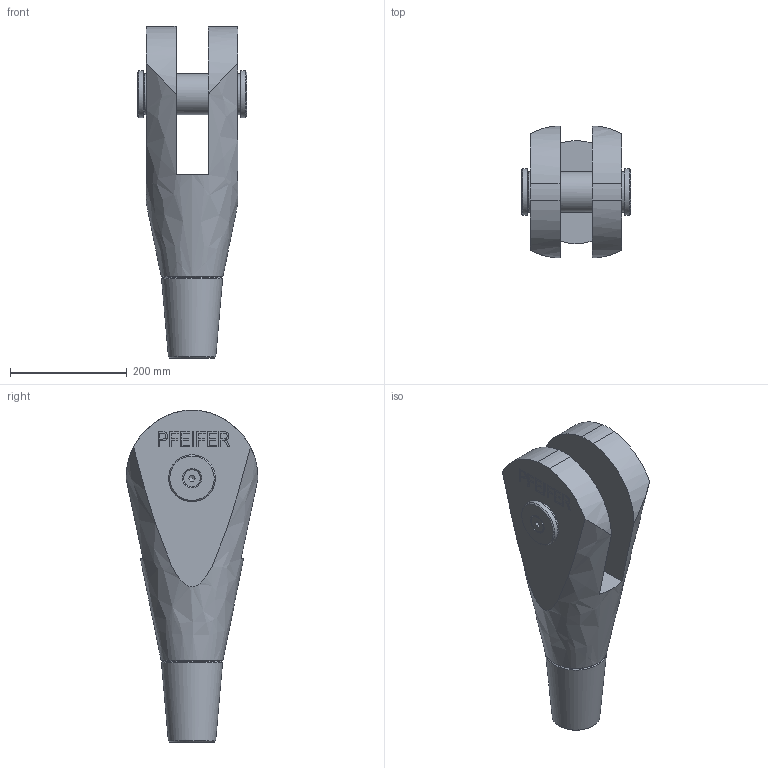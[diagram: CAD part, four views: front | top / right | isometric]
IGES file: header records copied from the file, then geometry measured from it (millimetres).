
Global section: file name: 520-070-GAK; native system: Autodesk Inventor 2016; preprocessor: unknown; author: Administrator; date: 20200625.080515; units: centimetre
Bounding box: 187.3 x 226.18 x 568.88 mm (x, y, z)
Volume: 8069926.3 mm3; surface area: 463326.8 mm2
Topology: 2 solids, 4 shells, 186 faces, 492 edges, 329 vertices
Faces by surface type: bspline 186
